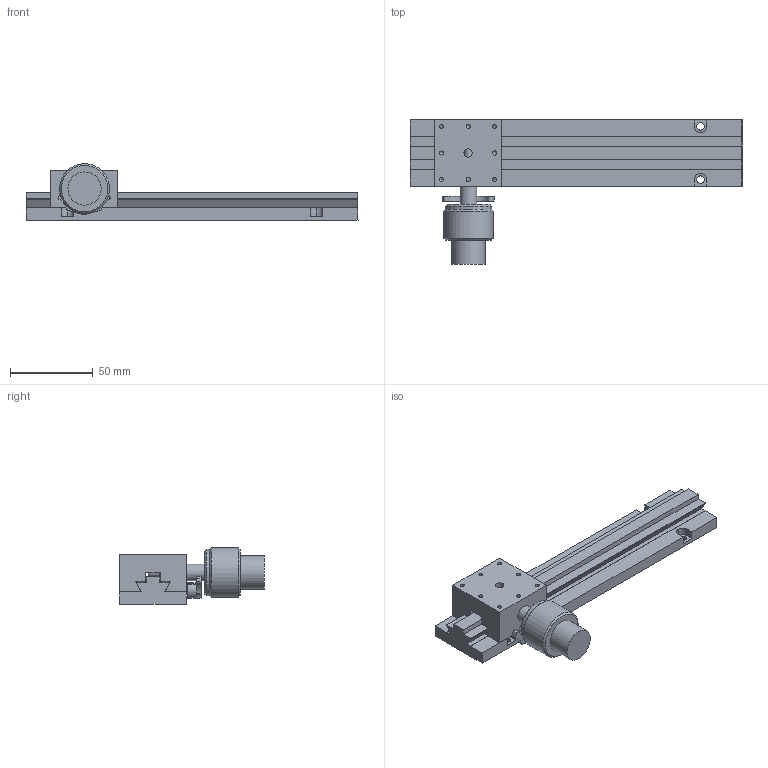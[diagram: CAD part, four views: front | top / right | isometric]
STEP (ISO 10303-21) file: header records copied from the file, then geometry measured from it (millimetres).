
FILE_DESCRIPTION( ( 'STEP AP203' ), '1' );
FILE_NAME( 'C:/3D-Trans/3D_BDLXB-40160+080811.step', '2008-08-11T06:51:31', ( ' ' ), ( ' ' ), 'XStep 1.0', ' ', ' ' );
FILE_SCHEMA( ( 'CONFIG_CONTROL_DESIGN' ) );
Length unit declared in the file: millimetre
Products named in the file (3): 1; 2; 3
Bounding box: 200 x 87 x 34.1 mm (x, y, z)
Volume: 134425.8 mm3; surface area: 39597.3 mm2
Topology: 3 solids, 3 shells, 133 faces, 350 edges, 229 vertices
Faces by surface type: plane 66, cylinder 56, cone 11
Full cylindrical faces by diameter (mm): 2.5 x16, 4 x1, 4.5 x5, 5 x2, 8.2 x1, 10 x1, 20 x1, 28 x1, 30 x1
Entity records: 4038 total; most frequent: CARTESIAN_POINT 761, DIRECTION 664, ORIENTED_EDGE 586, EDGE_CURVE 293, AXIS2_PLACEMENT_3D 242, VERTEX_POINT 221, EDGE_LOOP 189, LINE 180
